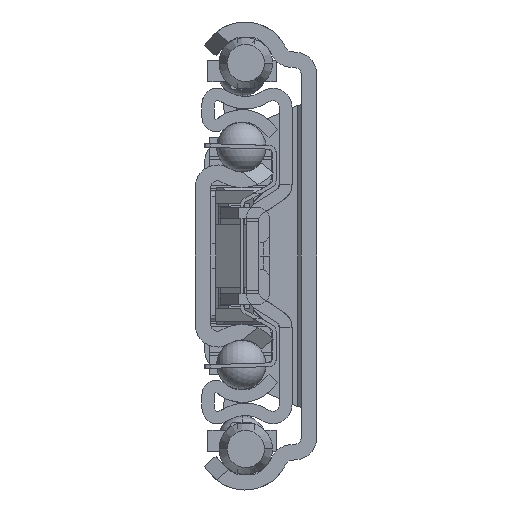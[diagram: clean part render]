
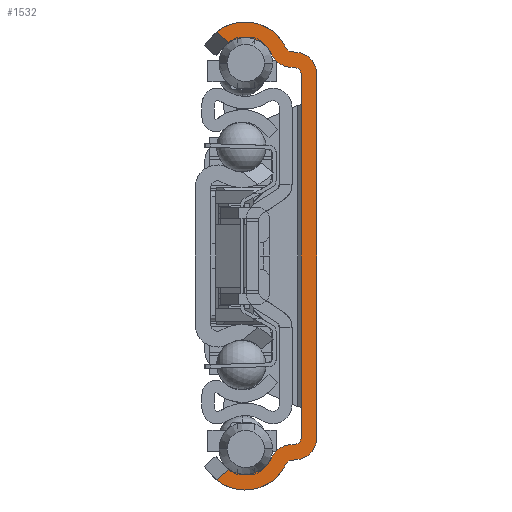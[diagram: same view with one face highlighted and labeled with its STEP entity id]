
A CAD part, left-side view. The second image highlights one B-rep face of the part: STEP entity #1532.
In plain terms, the highlighted planar face has unit normal (-1, 0, 0).
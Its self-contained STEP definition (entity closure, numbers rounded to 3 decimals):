
#1=DIRECTION('',(0.,-0.769,-0.639));
#2=VECTOR('',#1,2.575);
#3=CARTESIAN_POINT('',(0.,16.079,36.021));
#4=LINE('',#3,#2);
#5=CARTESIAN_POINT('',(0.,11.5,30.4));
#6=DIRECTION('',(1.,0.,0.));
#7=DIRECTION('',(0.,0.632,0.775));
#8=AXIS2_PLACEMENT_3D('',#5,#6,#7);
#10=DIRECTION('',(0.,-0.996,-0.087));
#11=VECTOR('',#10,0.904);
#12=CARTESIAN_POINT('',(0.,4.095,32.858));
#13=LINE('',#12,#11);
#14=CARTESIAN_POINT('',(0.,3.5,29.293));
#15=DIRECTION('',(-1.,0.,0.));
#16=DIRECTION('',(0.,-1.,0.));
#17=AXIS2_PLACEMENT_3D('',#14,#15,#16);
#19=DIRECTION('',(0.,0.,-1.));
#20=VECTOR('',#19,58.586);
#21=CARTESIAN_POINT('',(0.,0.,29.293));
#22=LINE('',#21,#20);
#23=CARTESIAN_POINT('',(0.,3.5,-29.293));
#24=DIRECTION('',(-1.,0.,0.));
#25=DIRECTION('',(0.,-0.087,-0.996));
#26=AXIS2_PLACEMENT_3D('',#23,#24,#25);
#28=DIRECTION('',(0.,0.996,-0.087));
#29=VECTOR('',#28,0.904);
#30=CARTESIAN_POINT('',(0.,3.195,-32.78));
#31=LINE('',#30,#29);
#32=CARTESIAN_POINT('',(0.,11.5,-30.4));
#33=DIRECTION('',(1.,0.,0.));
#34=DIRECTION('',(0.,-0.908,-0.419));
#35=AXIS2_PLACEMENT_3D('',#32,#33,#34);
#37=DIRECTION('',(0.,0.769,-0.639));
#38=VECTOR('',#37,2.575);
#39=CARTESIAN_POINT('',(0.,14.098,-34.377));
#40=LINE('',#39,#38);
#41=CARTESIAN_POINT('',(0.,11.5,-30.4));
#42=DIRECTION('',(-1.,0.,0.));
#43=DIRECTION('',(0.,0.547,-0.837));
#44=AXIS2_PLACEMENT_3D('',#41,#42,#43);
#46=CARTESIAN_POINT('',(0.,4.008,-33.854));
#47=DIRECTION('',(-1.,0.,0.));
#48=DIRECTION('',(0.,0.087,0.996));
#49=AXIS2_PLACEMENT_3D('',#46,#47,#48);
#51=DIRECTION('',(0.,-0.996,0.087));
#52=VECTOR('',#51,0.904);
#53=CARTESIAN_POINT('',(0.,4.313,-30.368));
#54=LINE('',#53,#52);
#55=DIRECTION('',(0.,0.,1.));
#56=VECTOR('',#55,58.586);
#57=CARTESIAN_POINT('',(0.,2.5,-29.293));
#58=LINE('',#57,#56);
#59=DIRECTION('',(0.,0.996,0.087));
#60=VECTOR('',#59,0.904);
#61=CARTESIAN_POINT('',(0.,3.413,30.289));
#62=LINE('',#61,#60);
#63=CARTESIAN_POINT('',(0.,4.008,33.854));
#64=DIRECTION('',(-1.,0.,0.));
#65=DIRECTION('',(0.,0.908,-0.419));
#66=AXIS2_PLACEMENT_3D('',#63,#64,#65);
#68=CARTESIAN_POINT('',(0.,11.5,30.4));
#69=DIRECTION('',(-1.,0.,0.));
#70=DIRECTION('',(0.,-0.908,0.419));
#71=AXIS2_PLACEMENT_3D('',#68,#69,#70);
#73=CARTESIAN_POINT('',(0.,14.098,34.377));
#121=CARTESIAN_POINT('',(0.,3.5,29.293));
#122=DIRECTION('',(1.,0.,0.));
#123=DIRECTION('',(0.,-0.087,0.996));
#124=AXIS2_PLACEMENT_3D('',#121,#122,#123);
#704=CARTESIAN_POINT('',(0.,16.079,
36.021));
#769=CARTESIAN_POINT('',(0.,16.079,
-36.021));
#822=CARTESIAN_POINT('',(0.,14.098,-34.377));
#1111=CARTESIAN_POINT('',(0.,3.5,-29.293));
#1112=DIRECTION('',(1.,0.,0.));
#1113=DIRECTION('',(0.,-1.,0.));
#1114=AXIS2_PLACEMENT_3D('',#1111,#1112,#1113);
#1121=CARTESIAN_POINT('',(0.,4.008,-33.854));
#1122=DIRECTION('',(1.,0.,0.));
#1123=DIRECTION('',(0.,0.908,0.419));
#1124=AXIS2_PLACEMENT_3D('',#1121,#1122,#1123);
#1139=CARTESIAN_POINT('',(0.,4.008,33.854));
#1140=DIRECTION('',(1.,0.,0.));
#1141=DIRECTION('',(0.,0.087,-0.996));
#1142=AXIS2_PLACEMENT_3D('',#1139,#1140,#1141);
#1157=CARTESIAN_POINT('',(0.,2.5,-29.293));
#1158=CARTESIAN_POINT('',(0.,2.5,29.293));
#1159=VERTEX_POINT('',#1157);
#1160=VERTEX_POINT('',#1158);
#1161=CARTESIAN_POINT('',(0.,3.413,-30.289));
#1162=VERTEX_POINT('',#1161);
#1163=CARTESIAN_POINT('',(0.,3.413,30.289));
#1164=VERTEX_POINT('',#1163);
#1165=CARTESIAN_POINT('',(0.,4.095,32.858));
#1166=CARTESIAN_POINT('',(0.,4.916,33.436));
#1167=VERTEX_POINT('',#1165);
#1168=VERTEX_POINT('',#1166);
#1169=CARTESIAN_POINT('',(0.,4.916,-33.436));
#1170=CARTESIAN_POINT('',(0.,4.095,-32.858));
#1171=VERTEX_POINT('',#1169);
#1172=VERTEX_POINT('',#1170);
#1173=CARTESIAN_POINT('',(0.,4.313,-30.368));
#1174=CARTESIAN_POINT('',(0.,7.186,-32.389));
#1175=VERTEX_POINT('',#1173);
#1176=VERTEX_POINT('',#1174);
#1177=CARTESIAN_POINT('',(0.,7.186,32.389));
#1178=CARTESIAN_POINT('',(0.,4.313,30.368));
#1179=VERTEX_POINT('',#1177);
#1180=VERTEX_POINT('',#1178);
#1181=CARTESIAN_POINT('',(0.,0.,29.293));
#1182=CARTESIAN_POINT('',(0.,3.195,32.78));
#1183=VERTEX_POINT('',#1181);
#1184=VERTEX_POINT('',#1182);
#1185=CARTESIAN_POINT('',(0.,3.195,-32.78));
#1186=CARTESIAN_POINT('',(0.,0.,-29.293));
#1187=VERTEX_POINT('',#1185);
#1188=VERTEX_POINT('',#1186);
#1435=VERTEX_POINT('',#73);
#1443=VERTEX_POINT('',#704);
#1444=VERTEX_POINT('',#769);
#1452=VERTEX_POINT('',#822);
#1485=CARTESIAN_POINT('',(0.,0.,0.));
#1486=DIRECTION('',(1.,0.,0.));
#1487=DIRECTION('',(0.,-1.,0.));
#1488=AXIS2_PLACEMENT_3D('',#1485,#1486,#1487);
#1489=PLANE('',#1488);
#1491=ORIENTED_EDGE('',*,*,#1490,.F.);
#1493=ORIENTED_EDGE('',*,*,#1492,.T.);
#1495=ORIENTED_EDGE('',*,*,#1494,.F.);
#1497=ORIENTED_EDGE('',*,*,#1496,.T.);
#1499=ORIENTED_EDGE('',*,*,#1498,.F.);
#1501=ORIENTED_EDGE('',*,*,#1500,.T.);
#1503=ORIENTED_EDGE('',*,*,#1502,.F.);
#1505=ORIENTED_EDGE('',*,*,#1504,.T.);
#1507=ORIENTED_EDGE('',*,*,#1506,.F.);
#1509=ORIENTED_EDGE('',*,*,#1508,.T.);
#1511=ORIENTED_EDGE('',*,*,#1510,.F.);
#1513=ORIENTED_EDGE('',*,*,#1512,.T.);
#1515=ORIENTED_EDGE('',*,*,#1514,.F.);
#1517=ORIENTED_EDGE('',*,*,#1516,.T.);
#1519=ORIENTED_EDGE('',*,*,#1518,.F.);
#1521=ORIENTED_EDGE('',*,*,#1520,.T.);
#1523=ORIENTED_EDGE('',*,*,#1522,.F.);
#1525=ORIENTED_EDGE('',*,*,#1524,.T.);
#1527=ORIENTED_EDGE('',*,*,#1526,.F.);
#1529=ORIENTED_EDGE('',*,*,#1528,.T.);
#1530=EDGE_LOOP('',(#1491,#1493,#1495,#1497,#1499,#1501,#1503,#1505,#1507,#1509,
#1511,#1513,#1515,#1517,#1519,#1521,#1523,#1525,#1527,#1529));
#1531=FACE_OUTER_BOUND('',#1530,.F.);
#9=CIRCLE('',#8,7.25);
#18=CIRCLE('',#17,3.5);
#27=CIRCLE('',#26,3.5);
#36=CIRCLE('',#35,7.25);
#45=CIRCLE('',#44,4.75);
#50=CIRCLE('',#49,3.5);
#67=CIRCLE('',#66,3.5);
#72=CIRCLE('',#71,4.75);
#125=CIRCLE('',#124,1.);
#1115=CIRCLE('',#1114,1.);
#1125=CIRCLE('',#1124,1.);
#1143=CIRCLE('',#1142,1.);
#1490=EDGE_CURVE('',#1443,#1435,#4,.T.);
#1492=EDGE_CURVE('',#1443,#1168,#9,.T.);
#1494=EDGE_CURVE('',#1167,#1168,#1143,.T.);
#1496=EDGE_CURVE('',#1167,#1184,#13,.T.);
#1498=EDGE_CURVE('',#1183,#1184,#18,.T.);
#1500=EDGE_CURVE('',#1183,#1188,#22,.T.);
#1502=EDGE_CURVE('',#1187,#1188,#27,.T.);
#1504=EDGE_CURVE('',#1187,#1172,#31,.T.);
#1506=EDGE_CURVE('',#1171,#1172,#1125,.T.);
#1508=EDGE_CURVE('',#1171,#1444,#36,.T.);
#1510=EDGE_CURVE('',#1452,#1444,#40,.T.);
#1512=EDGE_CURVE('',#1452,#1176,#45,.T.);
#1514=EDGE_CURVE('',#1175,#1176,#50,.T.);
#1516=EDGE_CURVE('',#1175,#1162,#54,.T.);
#1518=EDGE_CURVE('',#1159,#1162,#1115,.T.);
#1520=EDGE_CURVE('',#1159,#1160,#58,.T.);
#1522=EDGE_CURVE('',#1164,#1160,#125,.T.);
#1524=EDGE_CURVE('',#1164,#1180,#62,.T.);
#1526=EDGE_CURVE('',#1179,#1180,#67,.T.);
#1528=EDGE_CURVE('',#1179,#1435,#72,.T.);
#1532=ADVANCED_FACE('',(#1531),#1489,.F.);
